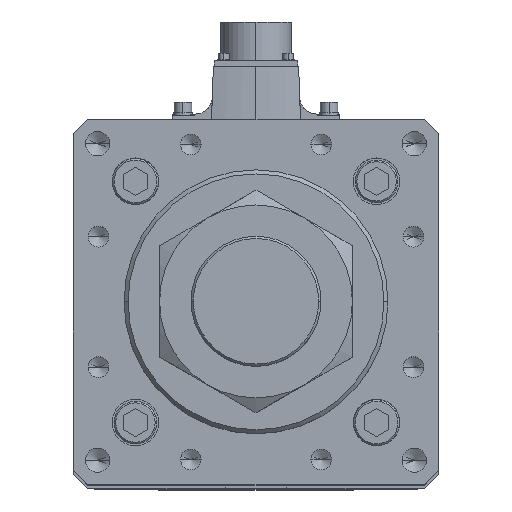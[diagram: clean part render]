
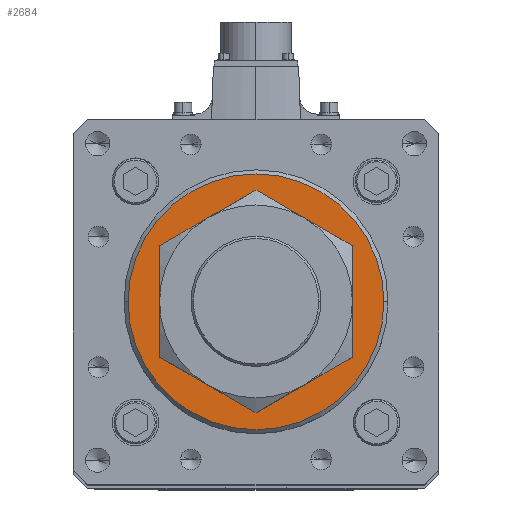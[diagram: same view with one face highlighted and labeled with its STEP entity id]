
A CAD part, top view. The second image highlights one B-rep face of the part: STEP entity #2684.
In plain terms, the highlighted planar face has unit normal (0, 0, 1).
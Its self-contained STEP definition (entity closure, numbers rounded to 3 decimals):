
#1680 = DIRECTION ( 'NONE',  ( 1., 0., 0. ) ) ;
#2684 = ADVANCED_FACE ( 'NONE', ( #14895, #36291 ), #5961, .T. ) ;
#3192 = AXIS2_PLACEMENT_3D ( 'NONE', #22527, #39871, #1680 ) ;
#4308 = ORIENTED_EDGE ( 'NONE', *, *, #49908, .T. ) ;
#4598 = AXIS2_PLACEMENT_3D ( 'NONE', #14313, #18961, #18596 ) ;
#5961 = PLANE ( 'NONE',  #16782 ) ;
#8645 = VERTEX_POINT ( 'NONE', #53617 ) ;
#11526 = CIRCLE ( 'NONE', #52512, 40.5 ) ;
#12154 = VERTEX_POINT ( 'NONE', #50072 ) ;
#12813 = DIRECTION ( 'NONE',  ( 0., 0., 1. ) ) ;
#14313 = CARTESIAN_POINT ( 'NONE',  ( 0., 0., 1112. ) ) ;
#14895 = FACE_BOUND ( 'NONE', #44657, .T. ) ;
#16782 = AXIS2_PLACEMENT_3D ( 'NONE', #48633, #23085, #52960 ) ;
#16918 = DIRECTION ( 'NONE',  ( 1., 0., 0. ) ) ;
#18596 = DIRECTION ( 'NONE',  ( 1., 0., 0. ) ) ;
#18961 = DIRECTION ( 'NONE',  ( 0., 0., -1. ) ) ;
#21016 = CARTESIAN_POINT ( 'NONE',  ( 0., 0., 1112. ) ) ;
#22375 = CIRCLE ( 'NONE', #30286, 63. ) ;
#22527 = CARTESIAN_POINT ( 'NONE',  ( 0., 0., 1112. ) ) ;
#23085 = DIRECTION ( 'NONE',  ( 0., 0., 1. ) ) ;
#24311 = DIRECTION ( 'NONE',  ( 0., 0., -1. ) ) ;
#24685 = DIRECTION ( 'NONE',  ( 1., 0., 0. ) ) ;
#27964 = VERTEX_POINT ( 'NONE', #48782 ) ;
#30286 = AXIS2_PLACEMENT_3D ( 'NONE', #21016, #12813, #16918 ) ;
#35538 = CIRCLE ( 'NONE', #4598, 40.5 ) ;
#36291 = FACE_OUTER_BOUND ( 'NONE', #40013, .T. ) ;
#39871 = DIRECTION ( 'NONE',  ( 0., 0., 1. ) ) ;
#40013 = EDGE_LOOP ( 'NONE', ( #46359, #54699 ) ) ;
#40097 = EDGE_CURVE ( 'NONE', #27964, #12154, #22375, .T. ) ;
#41261 = EDGE_CURVE ( 'NONE', #12154, #27964, #46927, .T. ) ;
#41925 = EDGE_CURVE ( 'NONE', #8645, #49980, #11526, .T. ) ;
#44657 = EDGE_LOOP ( 'NONE', ( #4308, #46274 ) ) ;
#46274 = ORIENTED_EDGE ( 'NONE', *, *, #41925, .T. ) ;
#46359 = ORIENTED_EDGE ( 'NONE', *, *, #41261, .T. ) ;
#46927 = CIRCLE ( 'NONE', #3192, 63. ) ;
#48633 = CARTESIAN_POINT ( 'NONE',  ( 0., 0., 1112. ) ) ;
#48782 = CARTESIAN_POINT ( 'NONE',  ( 63., 0., 1112. ) ) ;
#49869 = CARTESIAN_POINT ( 'NONE',  ( 40.5, 0., 1112. ) ) ;
#49908 = EDGE_CURVE ( 'NONE', #49980, #8645, #35538, .T. ) ;
#49980 = VERTEX_POINT ( 'NONE', #49869 ) ;
#50072 = CARTESIAN_POINT ( 'NONE',  ( -63., 0., 1112. ) ) ;
#50248 = CARTESIAN_POINT ( 'NONE',  ( 0., 0., 1112. ) ) ;
#52512 = AXIS2_PLACEMENT_3D ( 'NONE', #50248, #24311, #24685 ) ;
#52960 = DIRECTION ( 'NONE',  ( 1., 0., 0. ) ) ;
#53617 = CARTESIAN_POINT ( 'NONE',  ( -40.5, 0., 1112. ) ) ;
#54699 = ORIENTED_EDGE ( 'NONE', *, *, #40097, .T. ) ;
